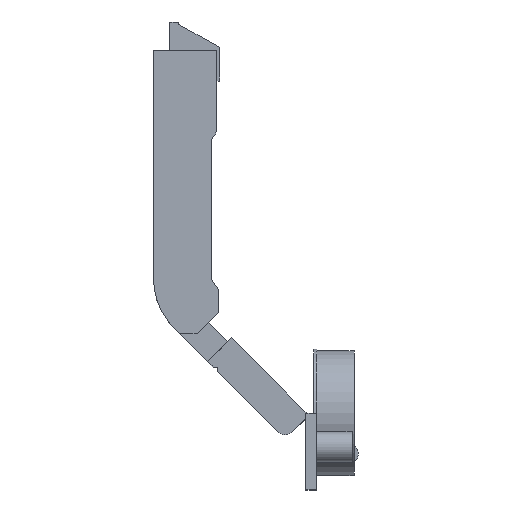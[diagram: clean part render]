
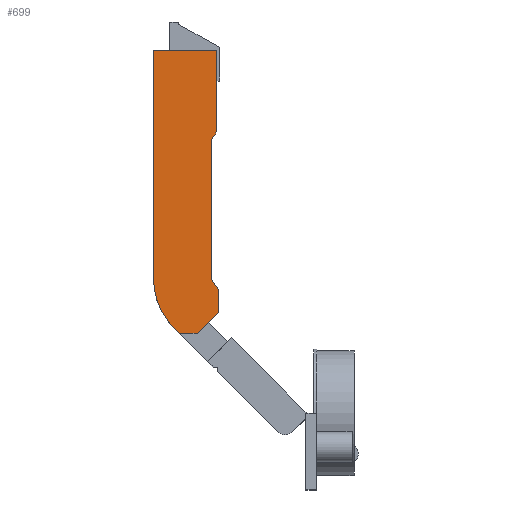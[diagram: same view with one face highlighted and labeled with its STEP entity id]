
A CAD part, top view. The second image highlights one B-rep face of the part: STEP entity #699.
In plain terms, the highlighted planar face has unit normal (0, 0, 1).
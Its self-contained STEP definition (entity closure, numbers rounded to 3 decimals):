
#18 = ORIENTED_EDGE ( 'NONE', *, *, #1712, .F. ) ;
#43 = CARTESIAN_POINT ( 'NONE',  ( -6., 37.592, 9.15 ) ) ;
#65 = VERTEX_POINT ( 'NONE', #2406 ) ;
#130 = EDGE_CURVE ( 'NONE', #409, #1407, #735, .T. ) ;
#138 = VERTEX_POINT ( 'NONE', #1642 ) ;
#251 = DIRECTION ( 'NONE',  ( -0.707, -0.707, 0. ) ) ;
#254 = CARTESIAN_POINT ( 'NONE',  ( -4.01, 28.384, 9.15 ) ) ;
#277 = CARTESIAN_POINT ( 'NONE',  ( -22.25, 101.894, 9.15 ) ) ;
#315 = VERTEX_POINT ( 'NONE', #277 ) ;
#325 = ORIENTED_EDGE ( 'NONE', *, *, #130, .F. ) ;
#379 = EDGE_CURVE ( 'NONE', #65, #1651, #397, .T. ) ;
#389 = LINE ( 'NONE', #494, #1064 ) ;
#397 = LINE ( 'NONE', #472, #1120 ) ;
#409 = VERTEX_POINT ( 'NONE', #786 ) ;
#428 = LINE ( 'NONE', #1647, #1692 ) ;
#436 = DIRECTION ( 'NONE',  ( -0.574, -0.819, 0. ) ) ;
#458 = EDGE_CURVE ( 'NONE', #1080, #2230, #428, .T. ) ;
#472 = CARTESIAN_POINT ( 'NONE',  ( -4.01, 34.75, 9.15 ) ) ;
#492 = DIRECTION ( 'NONE',  ( 0., -1., 0. ) ) ;
#494 = CARTESIAN_POINT ( 'NONE',  ( -4.5, 79.036, 9.15 ) ) ;
#496 = EDGE_CURVE ( 'NONE', #2230, #138, #1806, .T. ) ;
#586 = ORIENTED_EDGE ( 'NONE', *, *, #2577, .F. ) ;
#592 = VERTEX_POINT ( 'NONE', #2604 ) ;
#630 = CARTESIAN_POINT ( 'NONE',  ( -4.01, 28.384, 9.15 ) ) ;
#694 = DIRECTION ( 'NONE',  ( 0., -1., 0. ) ) ;
#699 = ADVANCED_FACE ( 'NONE', ( #1613 ), #2461, .F. ) ;
#735 = LINE ( 'NONE', #1897, #2874 ) ;
#743 = LINE ( 'NONE', #254, #781 ) ;
#749 = VERTEX_POINT ( 'NONE', #2248 ) ;
#781 = VECTOR ( 'NONE', #251, 1000. ) ;
#786 = CARTESIAN_POINT ( 'NONE',  ( -4.5, 79.036, 9.15 ) ) ;
#841 = CARTESIAN_POINT ( 'NONE',  ( -9.992, 22.402, 9.15 ) ) ;
#847 = ORIENTED_EDGE ( 'NONE', *, *, #379, .F. ) ;
#915 = ORIENTED_EDGE ( 'NONE', *, *, #1047, .F. ) ;
#1018 = ORIENTED_EDGE ( 'NONE', *, *, #496, .F. ) ;
#1033 = DIRECTION ( 'NONE',  ( 0., 1., 0. ) ) ;
#1036 = CARTESIAN_POINT ( 'NONE',  ( -22.25, 37.994, 9.15 ) ) ;
#1047 = EDGE_CURVE ( 'NONE', #1848, #315, #1271, .T. ) ;
#1064 = VECTOR ( 'NONE', #492, 1000. ) ;
#1080 = VERTEX_POINT ( 'NONE', #841 ) ;
#1089 = VECTOR ( 'NONE', #2354, 1000. ) ;
#1120 = VECTOR ( 'NONE', #2807, 1000. ) ;
#1206 = CIRCLE ( 'NONE', #3014, 20. ) ;
#1226 = VECTOR ( 'NONE', #694, 1000. ) ;
#1266 = DIRECTION ( 'NONE',  ( -1., 0., 0. ) ) ;
#1271 = LINE ( 'NONE', #1036, #2746 ) ;
#1297 = CARTESIAN_POINT ( 'NONE',  ( -14.942, 22.402, 9.15 ) ) ;
#1321 = EDGE_CURVE ( 'NONE', #1407, #65, #1707, .T. ) ;
#1404 = DIRECTION ( 'NONE',  ( 0., -1., 0. ) ) ;
#1407 = VERTEX_POINT ( 'NONE', #2812 ) ;
#1415 = DIRECTION ( 'NONE',  ( 0., 0., -1. ) ) ;
#1416 = CARTESIAN_POINT ( 'NONE',  ( -2.25, 37.994, 9.15 ) ) ;
#1606 = EDGE_LOOP ( 'NONE', ( #1018, #2343, #2875, #586, #847, #2000, #325, #1796, #18, #915, #2019 ) ) ;
#1613 = FACE_OUTER_BOUND ( 'NONE', #1606, .T. ) ;
#1641 = AXIS2_PLACEMENT_3D ( 'NONE', #2543, #2403, #2429 ) ;
#1642 = CARTESIAN_POINT ( 'NONE',  ( -16.392, 23.852, 9.15 ) ) ;
#1647 = CARTESIAN_POINT ( 'NONE',  ( -9.992, 22.402, 9.15 ) ) ;
#1651 = VERTEX_POINT ( 'NONE', #2418 ) ;
#1692 = VECTOR ( 'NONE', #1266, 1000. ) ;
#1707 = LINE ( 'NONE', #43, #1089 ) ;
#1712 = EDGE_CURVE ( 'NONE', #315, #592, #2628, .T. ) ;
#1796 = ORIENTED_EDGE ( 'NONE', *, *, #2643, .F. ) ;
#1806 = LINE ( 'NONE', #2775, #2729 ) ;
#1848 = VERTEX_POINT ( 'NONE', #2093 ) ;
#1889 = VECTOR ( 'NONE', #2272, 1000. ) ;
#1897 = CARTESIAN_POINT ( 'NONE',  ( -6., 76.894, 9.15 ) ) ;
#2000 = ORIENTED_EDGE ( 'NONE', *, *, #1321, .F. ) ;
#2019 = ORIENTED_EDGE ( 'NONE', *, *, #2175, .F. ) ;
#2071 = LINE ( 'NONE', #630, #1226 ) ;
#2093 = CARTESIAN_POINT ( 'NONE',  ( -22.25, 37.994, 9.15 ) ) ;
#2175 = EDGE_CURVE ( 'NONE', #138, #1848, #1206, .T. ) ;
#2230 = VERTEX_POINT ( 'NONE', #1297 ) ;
#2248 = CARTESIAN_POINT ( 'NONE',  ( -4.01, 28.384, 9.15 ) ) ;
#2272 = DIRECTION ( 'NONE',  ( 1., 0., 0. ) ) ;
#2278 = CARTESIAN_POINT ( 'NONE',  ( -22.25, 101.894, 9.15 ) ) ;
#2343 = ORIENTED_EDGE ( 'NONE', *, *, #458, .F. ) ;
#2354 = DIRECTION ( 'NONE',  ( 0., -1., 0. ) ) ;
#2403 = DIRECTION ( 'NONE',  ( 0., 0., -1. ) ) ;
#2406 = CARTESIAN_POINT ( 'NONE',  ( -6., 37.592, 9.15 ) ) ;
#2418 = CARTESIAN_POINT ( 'NONE',  ( -4.01, 34.75, 9.15 ) ) ;
#2429 = DIRECTION ( 'NONE',  ( 0., -1., 0. ) ) ;
#2461 = PLANE ( 'NONE',  #1641 ) ;
#2523 = DIRECTION ( 'NONE',  ( -0.707, 0.707, 0. ) ) ;
#2543 = CARTESIAN_POINT ( 'NONE',  ( -2.25, 37.994, 9.15 ) ) ;
#2577 = EDGE_CURVE ( 'NONE', #1651, #749, #2071, .T. ) ;
#2604 = CARTESIAN_POINT ( 'NONE',  ( -4.5, 101.894, 9.15 ) ) ;
#2628 = LINE ( 'NONE', #2278, #1889 ) ;
#2643 = EDGE_CURVE ( 'NONE', #592, #409, #389, .T. ) ;
#2729 = VECTOR ( 'NONE', #2523, 1000. ) ;
#2746 = VECTOR ( 'NONE', #1033, 1000. ) ;
#2775 = CARTESIAN_POINT ( 'NONE',  ( -5.502, 12.962, 9.15 ) ) ;
#2801 = EDGE_CURVE ( 'NONE', #749, #1080, #743, .T. ) ;
#2807 = DIRECTION ( 'NONE',  ( 0.574, -0.819, 0. ) ) ;
#2812 = CARTESIAN_POINT ( 'NONE',  ( -6., 76.894, 9.15 ) ) ;
#2874 = VECTOR ( 'NONE', #436, 1000. ) ;
#2875 = ORIENTED_EDGE ( 'NONE', *, *, #2801, .F. ) ;
#3014 = AXIS2_PLACEMENT_3D ( 'NONE', #1416, #1415, #1404 ) ;
